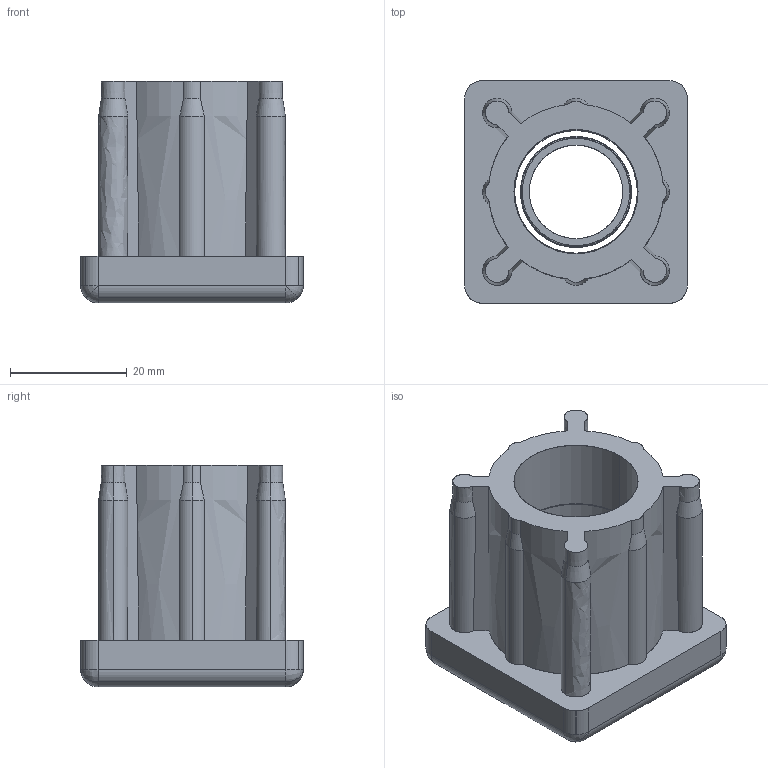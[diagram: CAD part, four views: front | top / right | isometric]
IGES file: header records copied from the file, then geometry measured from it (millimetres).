
Start section: SolidWorks IGES file using analytic representation for surfaces
Global section: file name: Y:\Tecnodin, S.L\Planos Clientes - Documentos\General\PLANOS CLIENTES\3D\-REVISAR-\CONTERAS TECOM\42006860516.IGS; native system: SolidWorks 2018; preprocessor: SolidWorks 2018; author: GerPro; date: 200226.123510; units: millimetre
Bounding box: 38.1 x 38.1 x 38 mm (x, y, z)
Surface area: 12093.9 mm2 (no closed solid volume)
Topology: 0 solids, 0 shells, 129 faces, 1237 edges, 1232 vertices
Faces by surface type: revolution 104, bspline 25
